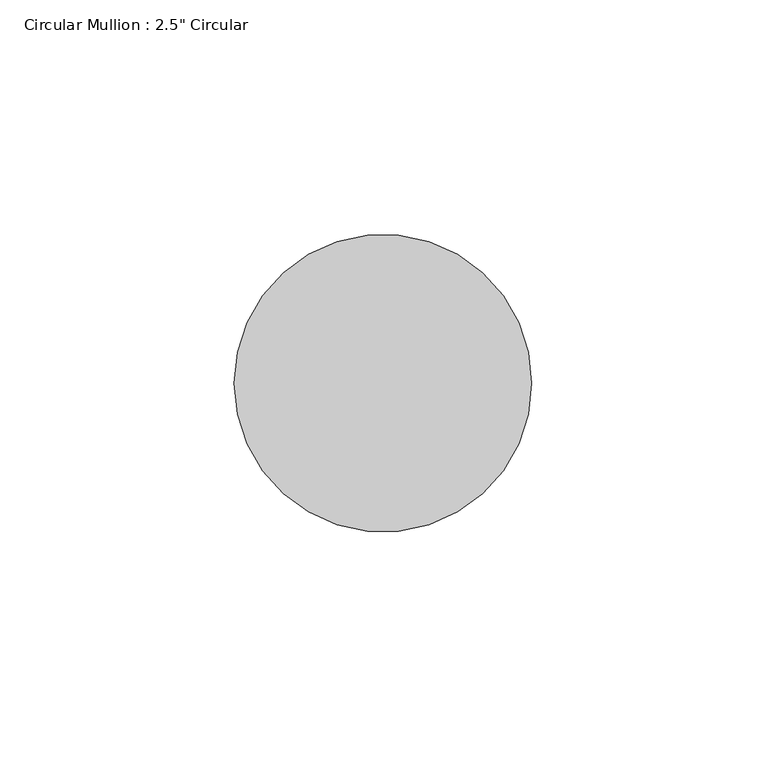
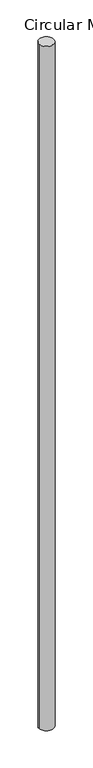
"""IFC4 building model written with IfcOpenShell, lengths in millimetres: member geometry."""

from ifc_helpers import new_model, si_unit, frame, origin, place, context, project, spatial, circle_curve, ellipse_curve, source, transform, mapped, element, save
from ifc_brep_helpers import plane_surface, cylinder_surface, advanced_brep


def member_beb84139(model_context):
    return source(origin(), model_context, "Body", "AdvancedBrep", [
        advanced_brep(
        [(0.0, 0.0, 0.0), (-63.5, 0.0, 0.0), (0.0, 0.0, -3116.4906276), (-63.5, 0.0, -3116.2403661)],
        [
            (0, 1, circle_curve(frame((-31.75, 0.0, 0.0), z_axis=(0.0, 0.0, 1.0), x_axis=(1.0, 0.0, 0.0)), 31.75)),
            (1, 0, circle_curve(frame((-31.75, 0.0, 0.0), z_axis=(0.0, 0.0, 1.0), x_axis=(1.0, 0.0, 0.0)), 31.75)),
            (0, 2),
            (2, 3, ellipse_curve(frame((-31.75, 0.0, -3116.3654969), z_axis=(0.003935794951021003, 0.05184724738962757, 0.9986472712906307), x_axis=(-0.07559118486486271, -0.9957822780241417, 0.05199641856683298)), 31.7930073, 31.75)),
            (3, 1),
            (3, 2, ellipse_curve(frame((-31.75, 0.0, -3116.3654969), z_axis=(0.003935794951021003, 0.05184724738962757, 0.9986472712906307), x_axis=(-0.07559118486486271, -0.9957822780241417, 0.05199641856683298)), 31.7930073, 31.75)),
        ],
        [
            plane_surface(frame((0.0, -63.5, 0.0), z_axis=(0.0, 0.0, 1.0), x_axis=(-1.0, 0.0, 0.0))),
            cylinder_surface(frame((-31.75, 0.0, 0.0), z_axis=(0.0, 0.0, 1.0), x_axis=(1.0, 0.0, 0.0)), 31.75),
            plane_surface(frame((303.9255672, -23.0714025, -3116.4906276), z_axis=(-0.003935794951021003, -0.05184724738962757, -0.9986472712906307), x_axis=(-0.07559118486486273, -0.9957822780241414, 0.05199641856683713))),
        ],
        [
            (0, [[1, 2]]),
            (1, [[-1, 3, 4, 5]]),
            (1, [[-2, -5, 6, -3]]),
            (2, [[-6, -4]]),
        ],
    ),
    ])


if __name__ == "__main__":
    model = new_model("IFC4")
    model_context = context("Model", 3, world=origin())
    ifc_project = project(units=[si_unit("LENGTHUNIT", "METRE", prefix="MILLI")], contexts=[model_context])
    site = spatial("IfcSite", under=ifc_project)
    building = spatial("IfcBuilding", under=site)
    placement = place(None, origin())
    member_shape = member_beb84139(model_context)
    element("IfcMember", 1, ObjectType="Circular Mullion : 2.5\" Circular", at=placement, inside=building, context=model_context, shape_type="MappedRepresentation", body=[
        mapped(member_shape, transform((0.0, 0.0, 0.0), x_axis=(1.0, 0.0, 0.0), y_axis=(0.0, 1.0, 0.0), z_axis=(0.0, 0.0, 1.0))),
    ])
    save(model, "model.ifc")
